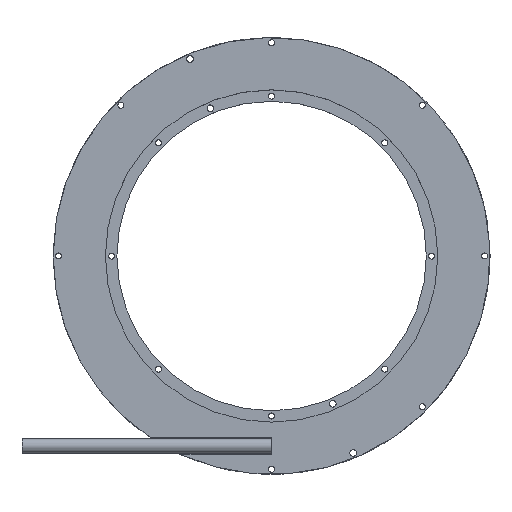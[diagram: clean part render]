
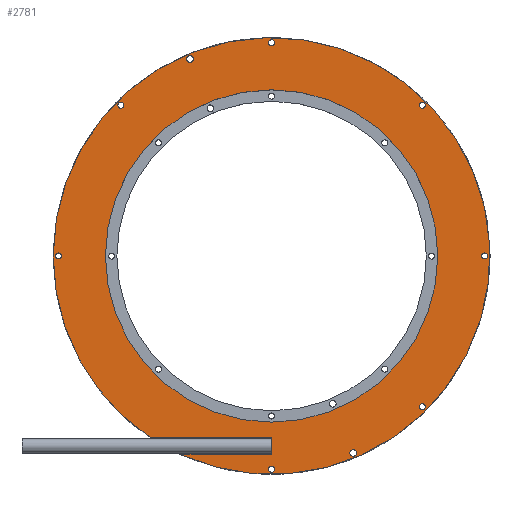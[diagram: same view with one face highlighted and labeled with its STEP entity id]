
A CAD part, top view. The second image highlights one B-rep face of the part: STEP entity #2781.
In plain terms, the highlighted planar face has unit normal (0, 0, 1) as drawn and (0, 0, -1) by its records, which use the part's own axes.
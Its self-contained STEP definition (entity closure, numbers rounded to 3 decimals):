
#2781=ADVANCED_FACE('',(#5611,#5613,#5615,#5617,#5619,#5621,#5623,#5625,#5627,#5629,
#5631),#5633,.F.);
#5611=FACE_BOUND('',#5612,.T.);
#5612=EDGE_LOOP('',(#8285,#8286,#8287,#8288,#8289));
#5613=FACE_BOUND('',#5614,.T.);
#5614=EDGE_LOOP('',(#8290));
#5615=FACE_BOUND('',#5616,.T.);
#5616=EDGE_LOOP('',(#8291));
#5617=FACE_BOUND('',#5618,.T.);
#5618=EDGE_LOOP('',(#8292));
#5619=FACE_BOUND('',#5620,.T.);
#5620=EDGE_LOOP('',(#8293));
#5621=FACE_BOUND('',#5622,.T.);
#5622=EDGE_LOOP('',(#8294));
#5623=FACE_BOUND('',#5624,.T.);
#5624=EDGE_LOOP('',(#8295));
#5625=FACE_BOUND('',#5626,.T.);
#5626=EDGE_LOOP('',(#8296));
#5627=FACE_BOUND('',#5628,.T.);
#5628=EDGE_LOOP('',(#8297));
#5629=FACE_BOUND('',#5630,.T.);
#5630=EDGE_LOOP('',(#8298));
#5631=FACE_BOUND('',#5632,.T.);
#5632=EDGE_LOOP('',(#8299));
#5633=PLANE('',#5634);
#5634=AXIS2_PLACEMENT_3D('',#5635,#5636,#5637);
#5635=CARTESIAN_POINT('',(0.,0.,0.));
#5636=DIRECTION('',(0.,0.,1.));
#5637=DIRECTION('',(-1.,0.,0.));
#8285=ORIENTED_EDGE('',*,*,#9694,.T.);
#8286=ORIENTED_EDGE('',*,*,#9688,.T.);
#8287=ORIENTED_EDGE('',*,*,#9695,.T.);
#8288=ORIENTED_EDGE('',*,*,#9696,.F.);
#8289=ORIENTED_EDGE('',*,*,#9697,.F.);
#8290=ORIENTED_EDGE('',*,*,#9698,.T.);
#8291=ORIENTED_EDGE('',*,*,#9699,.T.);
#8292=ORIENTED_EDGE('',*,*,#9700,.T.);
#8293=ORIENTED_EDGE('',*,*,#9701,.T.);
#8294=ORIENTED_EDGE('',*,*,#9702,.T.);
#8295=ORIENTED_EDGE('',*,*,#9703,.T.);
#8296=ORIENTED_EDGE('',*,*,#9704,.T.);
#8297=ORIENTED_EDGE('',*,*,#9705,.T.);
#8298=ORIENTED_EDGE('',*,*,#9706,.T.);
#8299=ORIENTED_EDGE('',*,*,#9707,.T.);
#9688=EDGE_CURVE('',#11698,#11699,#11700,.T.);
#9694=EDGE_CURVE('',#11710,#11698,#11711,.T.);
#9695=EDGE_CURVE('',#11699,#11712,#11713,.T.);
#9696=EDGE_CURVE('',#11714,#11712,#11715,.T.);
#9697=EDGE_CURVE('',#11710,#11714,#11716,.T.);
#9698=EDGE_CURVE('',#11717,#11717,#11718,.T.);
#9699=EDGE_CURVE('',#11719,#11719,#11720,.T.);
#9700=EDGE_CURVE('',#11721,#11721,#11722,.T.);
#9701=EDGE_CURVE('',#11723,#11723,#11724,.T.);
#9702=EDGE_CURVE('',#11725,#11725,#11726,.T.);
#9703=EDGE_CURVE('',#11727,#11727,#11728,.T.);
#9704=EDGE_CURVE('',#11729,#11729,#11730,.T.);
#9705=EDGE_CURVE('',#11731,#11731,#11732,.T.);
#9706=EDGE_CURVE('',#11733,#11733,#11734,.T.);
#9707=EDGE_CURVE('',#11735,#11735,#11736,.T.);
#11698=VERTEX_POINT('',#16426);
#11699=VERTEX_POINT('',#16427);
#11700=LINE('',#16428,#16429);
#11710=VERTEX_POINT('',#16452);
#11711=LINE('',#16453,#16454);
#11712=VERTEX_POINT('',#16456);
#11713=LINE('',#16457,#16458);
#11714=VERTEX_POINT('',#16460);
#11715=CIRCLE('',#16461,105.);
#11716=CIRCLE('',#16465,105.);
#11717=VERTEX_POINT('',#16469);
#11718=CIRCLE('',#16470,1.45);
#11719=VERTEX_POINT('',#16474);
#11720=CIRCLE('',#16475,1.45);
#11721=VERTEX_POINT('',#16479);
#11722=CIRCLE('',#16480,1.45);
#11723=VERTEX_POINT('',#16484);
#11724=CIRCLE('',#16485,1.45);
#11725=VERTEX_POINT('',#16489);
#11726=CIRCLE('',#16490,1.45);
#11727=VERTEX_POINT('',#16494);
#11728=CIRCLE('',#16495,1.45);
#11729=VERTEX_POINT('',#16499);
#11730=CIRCLE('',#16500,1.45);
#11731=VERTEX_POINT('',#16504);
#11732=CIRCLE('',#16505,1.6);
#11733=VERTEX_POINT('',#16509);
#11734=CIRCLE('',#16510,1.6);
#11735=VERTEX_POINT('',#16514);
#11736=CIRCLE('',#16515,79.9);
#16426=CARTESIAN_POINT('',(0.,87.3,0.));
#16427=CARTESIAN_POINT('',(0.,95.3,0.));
#16428=CARTESIAN_POINT('',(0.,87.3,0.));
#16429=VECTOR('',#16430,1.);
#16430=DIRECTION('',(0.,1.,0.));
#16452=CARTESIAN_POINT('',(-58.341,87.3,0.));
#16453=CARTESIAN_POINT('',(-58.341,87.3,0.));
#16454=VECTOR('',#16455,1.);
#16455=DIRECTION('',(1.,0.,0.));
#16456=CARTESIAN_POINT('',(-44.078,95.3,0.));
#16457=CARTESIAN_POINT('',(0.,95.3,0.));
#16458=VECTOR('',#16459,1.);
#16459=DIRECTION('',(-1.,0.,0.));
#16460=CARTESIAN_POINT('',(-105.,0.,0.));
#16461=AXIS2_PLACEMENT_3D('',#16462,#16463,#16464);
#16462=CARTESIAN_POINT('',(0.,0.,0.));
#16463=DIRECTION('',(0.,0.,1.));
#16464=DIRECTION('',(-1.,0.,0.));
#16465=AXIS2_PLACEMENT_3D('',#16466,#16467,#16468);
#16466=CARTESIAN_POINT('',(0.,0.,0.));
#16467=DIRECTION('',(0.,0.,1.));
#16468=DIRECTION('',(-0.556,0.831,0.));
#16469=CARTESIAN_POINT('',(-103.95,0.,0.));
#16470=AXIS2_PLACEMENT_3D('',#16471,#16472,#16473);
#16471=CARTESIAN_POINT('',(-102.5,0.,0.));
#16472=DIRECTION('',(0.,0.,1.));
#16473=DIRECTION('',(-1.,0.,0.));
#16474=CARTESIAN_POINT('',(101.05,0.,0.));
#16475=AXIS2_PLACEMENT_3D('',#16476,#16477,#16478);
#16476=CARTESIAN_POINT('',(102.5,0.,0.));
#16477=DIRECTION('',(0.,0.,1.));
#16478=DIRECTION('',(-1.,0.,0.));
#16479=CARTESIAN_POINT('',(-1.45,102.5,0.));
#16480=AXIS2_PLACEMENT_3D('',#16481,#16482,#16483);
#16481=CARTESIAN_POINT('',(0.,102.5,0.));
#16482=DIRECTION('',(0.,0.,1.));
#16483=DIRECTION('',(-1.,0.,0.));
#16484=CARTESIAN_POINT('',(-1.45,-102.5,0.));
#16485=AXIS2_PLACEMENT_3D('',#16486,#16487,#16488);
#16486=CARTESIAN_POINT('',(0.,-102.5,0.));
#16487=DIRECTION('',(0.,0.,1.));
#16488=DIRECTION('',(-1.,0.,0.));
#16489=CARTESIAN_POINT('',(71.028,72.478,0.));
#16490=AXIS2_PLACEMENT_3D('',#16491,#16492,#16493);
#16491=CARTESIAN_POINT('',(72.478,72.478,0.));
#16492=DIRECTION('',(0.,0.,1.));
#16493=DIRECTION('',(-1.,0.,0.));
#16494=CARTESIAN_POINT('',(-73.928,-72.478,0.));
#16495=AXIS2_PLACEMENT_3D('',#16496,#16497,#16498);
#16496=CARTESIAN_POINT('',(-72.478,-72.478,0.));
#16497=DIRECTION('',(0.,0.,1.));
#16498=DIRECTION('',(-1.,0.,0.));
#16499=CARTESIAN_POINT('',(71.028,-72.478,0.));
#16500=AXIS2_PLACEMENT_3D('',#16501,#16502,#16503);
#16501=CARTESIAN_POINT('',(72.478,-72.478,0.));
#16502=DIRECTION('',(0.,0.,1.));
#16503=DIRECTION('',(-1.,0.,0.));
#16504=CARTESIAN_POINT('',(-40.825,-94.698,0.));
#16505=AXIS2_PLACEMENT_3D('',#16506,#16507,#16508);
#16506=CARTESIAN_POINT('',(-39.225,-94.698,0.));
#16507=DIRECTION('',(0.,0.,1.));
#16508=DIRECTION('',(-1.,0.,0.));
#16509=CARTESIAN_POINT('',(37.625,94.698,0.));
#16510=AXIS2_PLACEMENT_3D('',#16511,#16512,#16513);
#16511=CARTESIAN_POINT('',(39.225,94.698,0.));
#16512=DIRECTION('',(0.,0.,1.));
#16513=DIRECTION('',(-1.,0.,0.));
#16514=CARTESIAN_POINT('',(-79.9,0.,0.));
#16515=AXIS2_PLACEMENT_3D('',#16516,#16517,#16518);
#16516=CARTESIAN_POINT('',(0.,0.,0.));
#16517=DIRECTION('',(0.,0.,1.));
#16518=DIRECTION('',(-1.,0.,0.));
